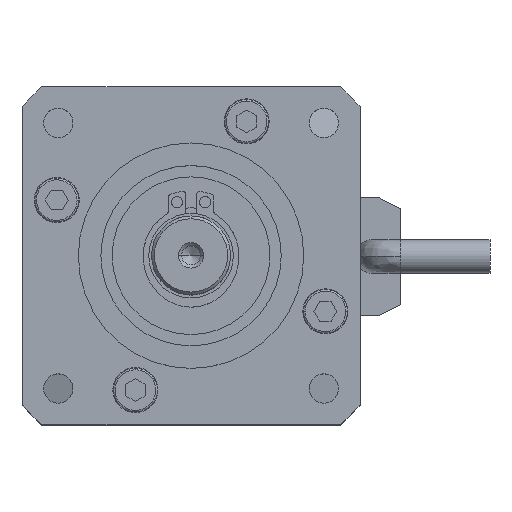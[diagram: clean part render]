
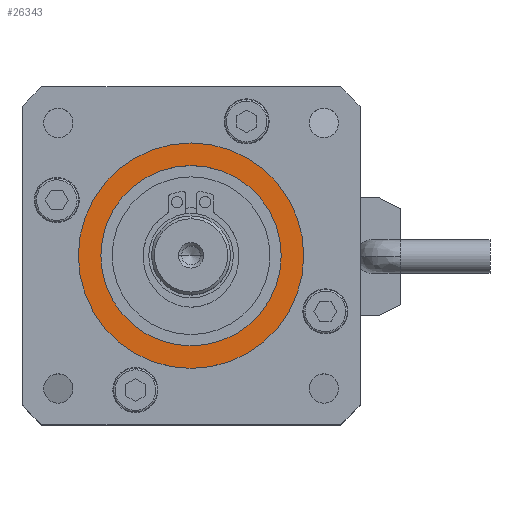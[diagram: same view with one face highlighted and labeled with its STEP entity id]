
A CAD part, top view. The second image highlights one B-rep face of the part: STEP entity #26343.
In plain terms, the highlighted planar face has unit normal (0, 0, 1).
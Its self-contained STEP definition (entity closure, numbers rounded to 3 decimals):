
#1588 = DIRECTION ( 'NONE',  ( 0., 0., 1. ) ) ;
#2179 = EDGE_CURVE ( 'NONE', #12862, #38008, #69135, .T. ) ;
#4432 = CIRCLE ( 'NONE', #67520, 16. ) ;
#5129 = DIRECTION ( 'NONE',  ( -1., 0., 0. ) ) ;
#8685 = EDGE_CURVE ( 'NONE', #50381, #42562, #56170, .T. ) ;
#12076 = EDGE_CURVE ( 'NONE', #42562, #50381, #4432, .T. ) ;
#12862 = VERTEX_POINT ( 'NONE', #69372 ) ;
#13618 = ORIENTED_EDGE ( 'NONE', *, *, #2179, .T. ) ;
#13691 = DIRECTION ( 'NONE',  ( 1., 0., 0. ) ) ;
#16578 = ORIENTED_EDGE ( 'NONE', *, *, #8685, .F. ) ;
#17277 = AXIS2_PLACEMENT_3D ( 'NONE', #66134, #29151, #55801 ) ;
#17553 = DIRECTION ( 'NONE',  ( 0., 0., 1. ) ) ;
#17780 = DIRECTION ( 'NONE',  ( 1., 0., 0. ) ) ;
#18241 = CARTESIAN_POINT ( 'NONE',  ( 0., 0., 10.5 ) ) ;
#22587 = PLANE ( 'NONE',  #17277 ) ;
#26343 = ADVANCED_FACE ( 'NONE', ( #28269, #39238 ), #22587, .T. ) ;
#26786 = ORIENTED_EDGE ( 'NONE', *, *, #12076, .F. ) ;
#28269 = FACE_BOUND ( 'NONE', #31496, .T. ) ;
#29151 = DIRECTION ( 'NONE',  ( 0., 0., 1. ) ) ;
#30437 = EDGE_LOOP ( 'NONE', ( #13618, #54976 ) ) ;
#31139 = DIRECTION ( 'NONE',  ( 0., 0., 1. ) ) ;
#31496 = EDGE_LOOP ( 'NONE', ( #26786, #16578 ) ) ;
#33550 = AXIS2_PLACEMENT_3D ( 'NONE', #43846, #1588, #65504 ) ;
#38008 = VERTEX_POINT ( 'NONE', #51095 ) ;
#39238 = FACE_OUTER_BOUND ( 'NONE', #30437, .T. ) ;
#40773 = CARTESIAN_POINT ( 'NONE',  ( 0., 0., 10.5 ) ) ;
#42040 = CARTESIAN_POINT ( 'NONE',  ( -16., 0., 10.5 ) ) ;
#42562 = VERTEX_POINT ( 'NONE', #55133 ) ;
#43846 = CARTESIAN_POINT ( 'NONE',  ( 0., 0., 10.5 ) ) ;
#48345 = AXIS2_PLACEMENT_3D ( 'NONE', #40773, #62702, #13691 ) ;
#48987 = AXIS2_PLACEMENT_3D ( 'NONE', #69309, #31139, #5129 ) ;
#50381 = VERTEX_POINT ( 'NONE', #42040 ) ;
#51095 = CARTESIAN_POINT ( 'NONE',  ( 20., 0., 10.5 ) ) ;
#54270 = CIRCLE ( 'NONE', #33550, 20. ) ;
#54976 = ORIENTED_EDGE ( 'NONE', *, *, #59086, .T. ) ;
#55133 = CARTESIAN_POINT ( 'NONE',  ( 16., 0., 10.5 ) ) ;
#55801 = DIRECTION ( 'NONE',  ( 1., 0., 0. ) ) ;
#56170 = CIRCLE ( 'NONE', #48345, 16. ) ;
#59086 = EDGE_CURVE ( 'NONE', #38008, #12862, #54270, .T. ) ;
#62702 = DIRECTION ( 'NONE',  ( 0., 0., 1. ) ) ;
#65504 = DIRECTION ( 'NONE',  ( -1., 0., 0. ) ) ;
#66134 = CARTESIAN_POINT ( 'NONE',  ( -20.24, -20.24, 10.5 ) ) ;
#67520 = AXIS2_PLACEMENT_3D ( 'NONE', #18241, #17553, #17780 ) ;
#69135 = CIRCLE ( 'NONE', #48987, 20. ) ;
#69309 = CARTESIAN_POINT ( 'NONE',  ( 0., 0., 10.5 ) ) ;
#69372 = CARTESIAN_POINT ( 'NONE',  ( -20., 0., 10.5 ) ) ;
